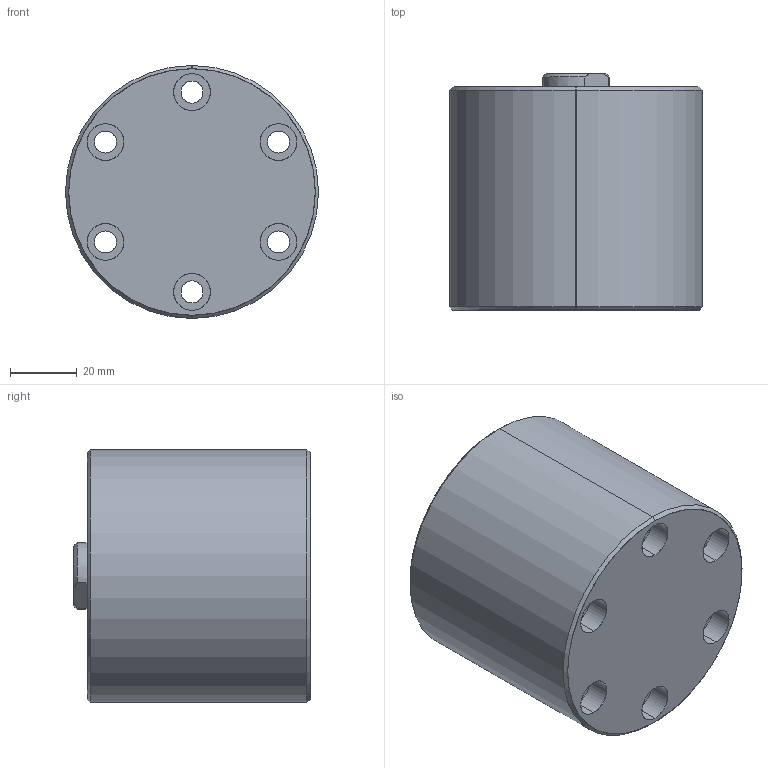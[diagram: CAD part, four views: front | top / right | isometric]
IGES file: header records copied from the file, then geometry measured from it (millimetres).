
Start section: SolidWorks IGES file using analytic representation for surfaces
Global section: file name: D:\abhilash\nijil\cylinder\Clasys1\COMPACT CYLINDER\OD765COMPACT\pt\40 BORE COMPACT CYLINDERtyp-2190 921.IGS; native system: SolidWorks 2010; preprocessor: SolidWorks 2010; author: nidheesh; date: 130730.122153; units: millimetre
Bounding box: 76 x 71 x 76 mm (x, y, z)
Surface area: 32382.1 mm2 (no closed solid volume)
Topology: 0 solids, 0 shells, 67 faces, 1796 edges, 1796 vertices
Faces by surface type: revolution 46, bspline 21
